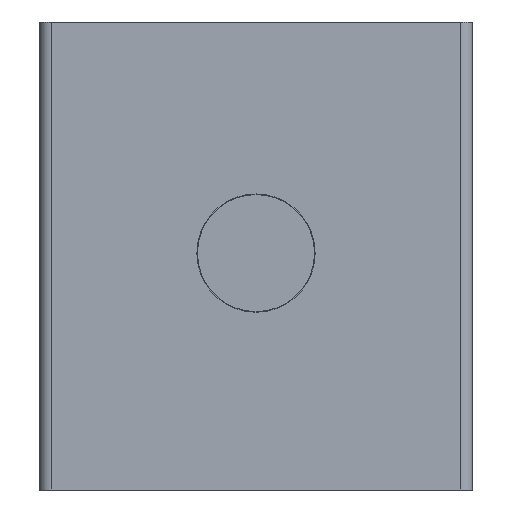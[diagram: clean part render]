
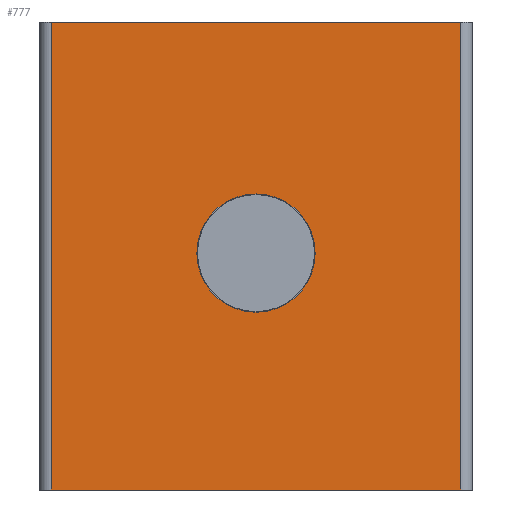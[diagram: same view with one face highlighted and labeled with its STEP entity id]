
A CAD part, front view. The second image highlights one B-rep face of the part: STEP entity #777.
In plain terms, the highlighted planar face has unit normal (0, -1, 0).
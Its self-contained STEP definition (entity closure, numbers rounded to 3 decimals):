
#5 = CARTESIAN_POINT ( 'NONE',  ( 1., 0., 0. ) ) ;
#11 = EDGE_CURVE ( 'NONE', #109, #434, #538, .T. ) ;
#14 = CARTESIAN_POINT ( 'NONE',  ( 37., 0., 40. ) ) ;
#71 = EDGE_CURVE ( 'NONE', #1330, #109, #1002, .T. ) ;
#83 = ORIENTED_EDGE ( 'NONE', *, *, #71, .T. ) ;
#98 = ORIENTED_EDGE ( 'NONE', *, *, #11, .T. ) ;
#109 = VERTEX_POINT ( 'NONE', #860 ) ;
#114 = DIRECTION ( 'NONE',  ( -1., 0., 0. ) ) ;
#119 = EDGE_CURVE ( 'NONE', #1106, #1330, #1031, .T. ) ;
#166 = VECTOR ( 'NONE', #644, 1000. ) ;
#218 = EDGE_LOOP ( 'NONE', ( #436 ) ) ;
#284 = CARTESIAN_POINT ( 'NONE',  ( 18.5, 0., 25.303 ) ) ;
#341 = CARTESIAN_POINT ( 'NONE',  ( 36., 0., 0. ) ) ;
#357 = CARTESIAN_POINT ( 'NONE',  ( 37., 0., 0. ) ) ;
#364 = VECTOR ( 'NONE', #1370, 1000. ) ;
#433 = CARTESIAN_POINT ( 'NONE',  ( 18.5, 0., 20.25 ) ) ;
#434 = VERTEX_POINT ( 'NONE', #5 ) ;
#436 = ORIENTED_EDGE ( 'NONE', *, *, #1086, .T. ) ;
#462 = DIRECTION ( 'NONE',  ( 0., 0., -1. ) ) ;
#471 = DIRECTION ( 'NONE',  ( 1., 0., 0. ) ) ;
#519 = VERTEX_POINT ( 'NONE', #284 ) ;
#522 = CIRCLE ( 'NONE', #599, 5.053 ) ;
#529 = AXIS2_PLACEMENT_3D ( 'NONE', #357, #652, #462 ) ;
#538 = LINE ( 'NONE', #841, #364 ) ;
#557 = VECTOR ( 'NONE', #114, 1000. ) ;
#599 = AXIS2_PLACEMENT_3D ( 'NONE', #433, #966, #959 ) ;
#644 = DIRECTION ( 'NONE',  ( 0., 0., 1. ) ) ;
#652 = DIRECTION ( 'NONE',  ( 0., -1., 0. ) ) ;
#738 = CARTESIAN_POINT ( 'NONE',  ( 36., 0., 0. ) ) ;
#777 = ADVANCED_FACE ( 'NONE', ( #1342, #1049 ), #1305, .T. ) ;
#802 = CARTESIAN_POINT ( 'NONE',  ( 36., 0., 40. ) ) ;
#820 = EDGE_LOOP ( 'NONE', ( #83, #98, #833, #1075 ) ) ;
#833 = ORIENTED_EDGE ( 'NONE', *, *, #1331, .T. ) ;
#841 = CARTESIAN_POINT ( 'NONE',  ( 1., 0., 0. ) ) ;
#860 = CARTESIAN_POINT ( 'NONE',  ( 1., 0., 40. ) ) ;
#943 = VECTOR ( 'NONE', #471, 1000. ) ;
#959 = DIRECTION ( 'NONE',  ( 0., 0., 1. ) ) ;
#966 = DIRECTION ( 'NONE',  ( 0., 1., 0. ) ) ;
#1002 = LINE ( 'NONE', #14, #557 ) ;
#1017 = LINE ( 'NONE', #1097, #943 ) ;
#1031 = LINE ( 'NONE', #738, #166 ) ;
#1049 = FACE_OUTER_BOUND ( 'NONE', #820, .T. ) ;
#1075 = ORIENTED_EDGE ( 'NONE', *, *, #119, .T. ) ;
#1086 = EDGE_CURVE ( 'NONE', #519, #519, #522, .T. ) ;
#1097 = CARTESIAN_POINT ( 'NONE',  ( 37., 0., 0. ) ) ;
#1106 = VERTEX_POINT ( 'NONE', #341 ) ;
#1305 = PLANE ( 'NONE',  #529 ) ;
#1330 = VERTEX_POINT ( 'NONE', #802 ) ;
#1331 = EDGE_CURVE ( 'NONE', #434, #1106, #1017, .T. ) ;
#1342 = FACE_BOUND ( 'NONE', #218, .T. ) ;
#1370 = DIRECTION ( 'NONE',  ( 0., 0., -1. ) ) ;
